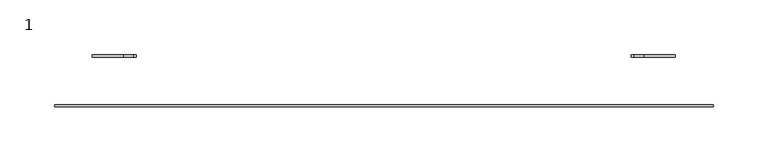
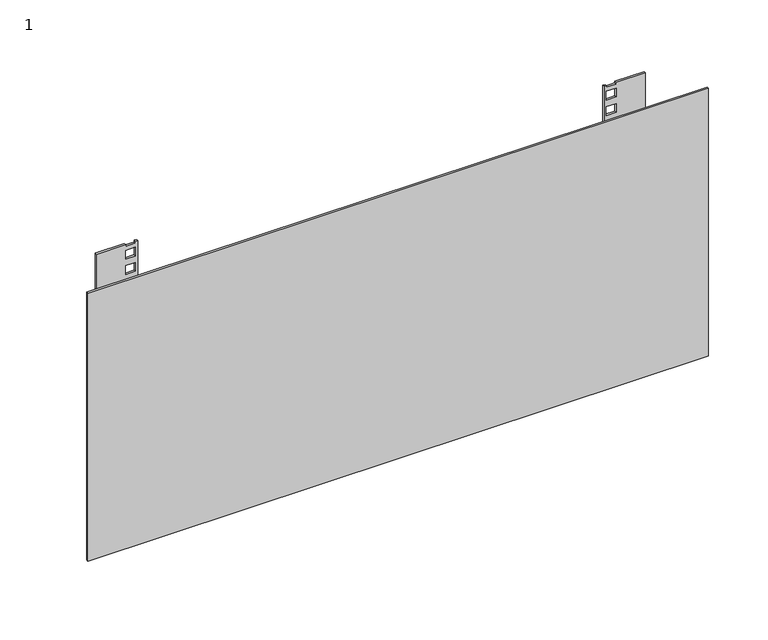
"""IFC4 building model written with IfcOpenShell, lengths in millimetres: proxy geometry, 1 : 6U 600мм металлическая дверь."""

import ifcopenshell
import ifcopenshell.guid

model = None  # the IFC model being written
_history = None  # IfcOwnerHistory: only IFC2X3 demands one
_inside = {}  # id of a spatial element -> (the spatial element, [elements in it])
_under = {}  # id of a project, library or spatial element -> (it, [spatial elements below it])
_declared = {}  # id of a project -> (the project, [libraries it declares])
_typed = {}  # id of a type object -> (the type object, [elements of that type])
_made_of = {}  # id of a material, layer set ... -> (it, [elements and type objects made of it])


def new_model(schema):
    """Start an empty IFC model of exactly this schema.

    Asked for "IFC4X3", IfcOpenShell would pick the latest addendum, in which some entities
    have other attributes; the version numbers below select the first issue.
    IFC2X3 requires an IfcOwnerHistory on every rooted entity: one is made here for all.
    """
    global model, _history
    if schema == "IFC4X3":
        model = ifcopenshell.file(schema_version=(4, 3, 0, 0))
    else:
        model = ifcopenshell.file(schema=schema)
    _inside.clear()
    _under.clear()
    _declared.clear()
    _typed.clear()
    _made_of.clear()
    _history = None
    if model.schema == "IFC2X3":
        org = make("IfcOrganization", Name="unknown")
        user = make(
            "IfcPersonAndOrganization",
            ThePerson=make("IfcPerson", FamilyName="unknown"),
            TheOrganization=org,
        )
        app = make(
            "IfcApplication",
            ApplicationDeveloper=org,
            Version="unknown",
            ApplicationFullName="unknown",
            ApplicationIdentifier="unknown",
        )
        _history = make(
            "IfcOwnerHistory",
            OwningUser=user,
            OwningApplication=app,
            ChangeAction="ADDED",
            CreationDate=0,
        )
    return model


def make(cls, **values):
    """One entity of the class cls with the attributes given. An attribute that is None is left unset."""
    return model.create_entity(
        cls, **{name: value for name, value in values.items() if value is not None}
    )


def rooted(cls, **values):
    """An entity with a GlobalId (a new one), such as an element, a storey or a relation."""
    return make(cls, GlobalId=ifcopenshell.guid.new(), OwnerHistory=_history, **values)


def si_unit(unit_type, name, prefix=None):
    """IfcSIUnit, for example si_unit("LENGTHUNIT", "METRE", prefix="MILLI")."""
    return make("IfcSIUnit", UnitType=unit_type, Prefix=prefix, Name=name)


def assignment(units):
    """IfcUnitAssignment: the units of a project."""
    return None if units is None else make("IfcUnitAssignment", Units=units)


def point(xyz):
    """IfcCartesianPoint."""
    return None if xyz is None else make("IfcCartesianPoint", Coordinates=xyz)


def direction(xyz):
    """IfcDirection."""
    return None if xyz is None else make("IfcDirection", DirectionRatios=xyz)


def frame(location, z_axis=None, x_axis=None):
    """IfcAxis2Placement3D, a coordinate frame: its origin and axes. An axis left out is left unset."""
    return make(
        "IfcAxis2Placement3D",
        Location=point(location),
        Axis=direction(z_axis),
        RefDirection=direction(x_axis),
    )


def origin():
    """The frame at (0, 0, 0) with its axes left unset."""
    return frame((0.0, 0.0, 0.0))


def place(relative_to, where):
    """IfcLocalPlacement: puts the frame where relative to a parent placement (None: the world)."""
    return make(
        "IfcLocalPlacement", PlacementRelTo=relative_to, RelativePlacement=where
    )


def context(
    kind, dimensions, precision=None, world=None, true_north=None, identifier=None
):
    """IfcGeometricRepresentationContext, for example the 3D "Model" context."""
    return make(
        "IfcGeometricRepresentationContext",
        ContextIdentifier=identifier,
        ContextType=kind,
        CoordinateSpaceDimension=dimensions,
        Precision=precision,
        WorldCoordinateSystem=world,
        TrueNorth=true_north,
    )


def project(units=None, contexts=None):
    """IfcProject with its units and contexts."""
    return rooted(
        "IfcProject",
        Name="project",
        RepresentationContexts=contexts,
        UnitsInContext=assignment(units),
    )


def spatial(cls, under=None, at=None, **own):
    """A site, building, storey or space (cls), placed at a placement, below another one or the project."""
    s = rooted(cls, ObjectPlacement=at, **own)
    if under is not None:
        _under.setdefault(under.id(), (under, []))[1].append(s)
    return s


def polyline(points):
    """IfcPolyline through the points."""
    return make("IfcPolyline", Points=[point(p) for p in points])


def outline(outer, holes=None, kind="AREA"):
    """IfcArbitraryClosedProfileDef: a profile drawn as a closed curve; with holes, ...WithVoids."""
    if holes is None:
        return make("IfcArbitraryClosedProfileDef", ProfileType=kind, OuterCurve=outer)
    return make(
        "IfcArbitraryProfileDefWithVoids",
        ProfileType=kind,
        OuterCurve=outer,
        InnerCurves=holes,
    )


def extrude(swept, where, along, depth):
    """IfcExtrudedAreaSolid: the profile swept, set in the frame where, extruded along a direction by depth."""
    return make(
        "IfcExtrudedAreaSolid",
        SweptArea=swept,
        Position=where,
        ExtrudedDirection=direction(along),
        Depth=depth,
    )


def shape(context_of_items, identifier, shape_type, items):
    """IfcShapeRepresentation: the items that make up one representation, for example the "Body"."""
    return make(
        "IfcShapeRepresentation",
        ContextOfItems=context_of_items,
        RepresentationIdentifier=identifier,
        RepresentationType=shape_type,
        Items=items,
    )


def source(mapping_origin, context_of_items, identifier, shape_type, items):
    """IfcRepresentationMap: a shape defined once, which mapped items show again and again."""
    return make(
        "IfcRepresentationMap",
        MappingOrigin=mapping_origin,
        MappedRepresentation=shape(context_of_items, identifier, shape_type, items),
    )


def transform(
    local_origin,
    x_axis=None,
    y_axis=None,
    z_axis=None,
    scale=None,
    scale2=None,
    scale3=None,
    uniform=True,
):
    """IfcCartesianTransformationOperator3D, or its non-uniform kind. x_axis, y_axis, z_axis: its Axis1, 2, 3."""
    if uniform:
        return make(
            "IfcCartesianTransformationOperator3D",
            Axis1=direction(x_axis),
            Axis2=direction(y_axis),
            LocalOrigin=point(local_origin),
            Scale=scale,
            Axis3=direction(z_axis),
        )
    return make(
        "IfcCartesianTransformationOperator3DnonUniform",
        Axis1=direction(x_axis),
        Axis2=direction(y_axis),
        LocalOrigin=point(local_origin),
        Scale=scale,
        Axis3=direction(z_axis),
        Scale2=scale2,
        Scale3=scale3,
    )


def mapped(mapping_source, mapping_target):
    """IfcMappedItem: shows the shape of a source again, moved by a transform."""
    return make(
        "IfcMappedItem", MappingSource=mapping_source, MappingTarget=mapping_target
    )


def made_of(thing, what):
    """Note that an element or type object is made of a material, layer set ...; save() writes the relation."""
    if what is not None:
        _made_of.setdefault(what.id(), (what, []))[1].append(thing)
    return thing


def element(
    cls,
    number,
    at=None,
    inside=None,
    cuts=None,
    type_object=None,
    material=None,
    context=None,
    identifier="Body",
    shape_type=None,
    held_by="IfcProductDefinitionShape",
    body=None,
    shapes=None,
    **own,
):
    """One element of the class cls, such as IfcWall. Its Tag is "e" and its number.

    at: its placement. inside: the storey or other place that contains it. cuts: it is an
    opening in that element (IfcRelVoidsElement). A single representation is given by context,
    identifier, shape_type and body (its items); several are given by shapes. held_by: the class
    of the entity that holds the representations. save() writes the other relations.
    """
    e = rooted(cls, Tag="e%d" % number, ObjectPlacement=at, **own)
    if body is not None:
        shapes = [shape(context, identifier, shape_type, body)]
    if shapes is not None:
        e.Representation = make(held_by, Representations=shapes)
    if inside is not None:
        _inside.setdefault(inside.id(), (inside, []))[1].append(e)
    if cuts is not None:
        rooted(
            "IfcRelVoidsElement", RelatingBuildingElement=cuts, RelatedOpeningElement=e
        )
    if type_object is not None:
        _typed.setdefault(type_object.id(), (type_object, []))[1].append(e)
    return made_of(e, material)


def aggregate(whole, parts):
    """IfcRelAggregates: a whole, such as a stair, and the parts it consists of."""
    return rooted("IfcRelAggregates", RelatingObject=whole, RelatedObjects=parts)


def save(model, path):
    """Write the relations noted so far, then the file.

    IfcRelAggregates (storeys below a building ...), IfcRelContainedInSpatialStructure (elements
    in a storey), IfcRelDefinesByType, IfcRelAssociatesMaterial and IfcRelDeclares: one each for
    every whole, place, type object, material and project.
    """
    for whole, parts in _under.values():
        aggregate(whole, parts)
    for where, things in _inside.values():
        rooted(
            "IfcRelContainedInSpatialStructure",
            RelatedElements=things,
            RelatingStructure=where,
        )
    for kind, things in _typed.values():
        rooted("IfcRelDefinesByType", RelatedObjects=things, RelatingType=kind)
    for what, things in _made_of.values():
        rooted("IfcRelAssociatesMaterial", RelatedObjects=things, RelatingMaterial=what)
    for by, libraries in _declared.values():
        rooted("IfcRelDeclares", RelatingContext=by, RelatedDefinitions=libraries)
    model.write(path)


def proxy_1_5aa67179(model_context):
    return source(origin(), model_context, "Body", "SweptSolid", [
        extrude(outline(polyline([(20.4675, 225.3), (20.4675, 265.3), (314.4675, 265.3), (314.4675, 237.05), (312.7675, 237.05), (312.7675, 227.55), (314.4675, 227.55), (314.4675, 225.3), (20.4675, 225.3)]), holes=[polyline([(55.0175, 227.55), (55.0175, 237.05), (46.0675, 237.05), (46.0675, 227.55), (55.0175, 227.55)]), polyline([(70.6675, 227.55), (70.6675, 237.05), (61.7175, 237.05), (61.7175, 227.55), (70.6675, 227.55)]), polyline([(86.3175, 227.55), (86.3175, 237.05), (77.3675, 237.05), (77.3675, 227.55), (86.3175, 227.55)]), polyline([(99.4675, 237.05), (90.5175, 237.05), (90.5175, 227.55), (99.4675, 227.55), (99.4675, 237.05)]), polyline([(115.1175, 237.05), (106.1675, 237.05), (106.1675, 227.55), (115.1175, 227.55), (115.1175, 237.05)]), polyline([(130.7675, 237.05), (121.8175, 237.05), (121.8175, 227.55), (130.7675, 227.55), (130.7675, 237.05)]), polyline([(143.9175, 237.05), (134.9675, 237.05), (134.9675, 227.55), (143.9175, 227.55), (143.9175, 237.05)]), polyline([(159.5675, 237.05), (150.6175, 237.05), (150.6175, 227.55), (159.5675, 227.55), (159.5675, 237.05)]), polyline([(175.2175, 237.05), (166.2675, 237.05), (166.2675, 227.55), (175.2175, 227.55), (175.2175, 237.05)]), polyline([(188.3675, 237.05), (179.4175, 237.05), (179.4175, 227.55), (188.3675, 227.55), (188.3675, 237.05)]), polyline([(204.0175, 237.05), (195.0675, 237.05), (195.0675, 227.55), (204.0175, 227.55), (204.0175, 237.05)]), polyline([(219.6675, 237.05), (210.7175, 237.05), (210.7175, 227.55), (219.6675, 227.55), (219.6675, 237.05)]), polyline([(232.8175, 237.05), (223.8675, 237.05), (223.8675, 227.55), (232.8175, 227.55), (232.8175, 237.05)]), polyline([(248.4675, 237.05), (239.5175, 237.05), (239.5175, 227.55), (248.4675, 227.55), (248.4675, 237.05)]), polyline([(264.1175, 237.05), (255.1675, 237.05), (255.1675, 227.55), (264.1175, 227.55), (264.1175, 237.05)]), polyline([(277.2675, 237.05), (268.3175, 237.05), (268.3175, 227.55), (277.2675, 227.55), (277.2675, 237.05)]), polyline([(292.9175, 237.05), (283.9675, 237.05), (283.9675, 227.55), (292.9175, 227.55), (292.9175, 237.05)]), polyline([(308.5675, 237.05), (299.6175, 237.05), (299.6175, 227.55), (308.5675, 227.55), (308.5675, 237.05)])]), frame((0.0, -254.6777479, 0.0), z_axis=(0.0, 1.0, 0.0), x_axis=(0.0, 0.0, 1.0)), (0.0, 0.0, 1.0), 2.0),
        extrude(outline(polyline([(20.4675, -265.7), (20.4675, -225.7), (314.4675, -225.7), (314.4675, -227.95), (312.7675, -227.95), (312.7675, -237.45), (314.4675, -237.45), (314.4675, -265.7), (20.4675, -265.7)]), holes=[polyline([(55.0175, -237.45), (55.0175, -227.95), (46.0675, -227.95), (46.0675, -237.45), (55.0175, -237.45)]), polyline([(70.6675, -237.45), (70.6675, -227.95), (61.7175, -227.95), (61.7175, -237.45), (70.6675, -237.45)]), polyline([(86.3175, -237.45), (86.3175, -227.95), (77.3675, -227.95), (77.3675, -237.45), (86.3175, -237.45)]), polyline([(90.5175, -237.45), (99.4675, -237.45), (99.4675, -227.95), (90.5175, -227.95), (90.5175, -237.45)]), polyline([(106.1675, -237.45), (115.1175, -237.45), (115.1175, -227.95), (106.1675, -227.95), (106.1675, -237.45)]), polyline([(121.8175, -237.45), (130.7675, -237.45), (130.7675, -227.95), (121.8175, -227.95), (121.8175, -237.45)]), polyline([(134.9675, -237.45), (143.9175, -237.45), (143.9175, -227.95), (134.9675, -227.95), (134.9675, -237.45)]), polyline([(150.6175, -237.45), (159.5675, -237.45), (159.5675, -227.95), (150.6175, -227.95), (150.6175, -237.45)]), polyline([(166.2675, -237.45), (175.2175, -237.45), (175.2175, -227.95), (166.2675, -227.95), (166.2675, -237.45)]), polyline([(179.4175, -237.45), (188.3675, -237.45), (188.3675, -227.95), (179.4175, -227.95), (179.4175, -237.45)]), polyline([(195.0675, -237.45), (204.0175, -237.45), (204.0175, -227.95), (195.0675, -227.95), (195.0675, -237.45)]), polyline([(210.7175, -237.45), (219.6675, -237.45), (219.6675, -227.95), (210.7175, -227.95), (210.7175, -237.45)]), polyline([(223.8675, -237.45), (232.8175, -237.45), (232.8175, -227.95), (223.8675, -227.95), (223.8675, -237.45)]), polyline([(239.5175, -237.45), (248.4675, -237.45), (248.4675, -227.95), (239.5175, -227.95), (239.5175, -237.45)]), polyline([(255.1675, -237.45), (264.1175, -237.45), (264.1175, -227.95), (255.1675, -227.95), (255.1675, -237.45)]), polyline([(268.3175, -237.45), (277.2675, -237.45), (277.2675, -227.95), (268.3175, -227.95), (268.3175, -237.45)]), polyline([(283.9675, -237.45), (292.9175, -237.45), (292.9175, -227.95), (283.9675, -227.95), (283.9675, -237.45)]), polyline([(299.6175, -237.45), (308.5675, -237.45), (308.5675, -227.95), (299.6175, -227.95), (299.6175, -237.45)])]), frame((0.0, -254.6777479, 0.0), z_axis=(0.0, 1.0, 0.0), x_axis=(0.0, 0.0, 1.0)), (0.0, 0.0, 1.0), 2.0),
        extrude(outline(polyline([(-300.0, -298.0), (300.0, -298.0), (300.0, -300.0), (-300.0, -300.0), (-300.0, -298.0)])), frame((0.0, 0.0, 40.0), z_axis=(0.0, 0.0, 1.0), x_axis=(1.0, 0.0, 0.0)), (0.0, 0.0, 1.0), 274.0),
    ])


if __name__ == "__main__":
    model = new_model("IFC4")
    model_context = context("Model", 3, world=origin())
    ifc_project = project(units=[si_unit("LENGTHUNIT", "METRE", prefix="MILLI")], contexts=[model_context])
    site = spatial("IfcSite", under=ifc_project)
    building = spatial("IfcBuilding", under=site)
    placement = place(None, origin())
    proxy_1_shape = proxy_1_5aa67179(model_context)
    element("IfcBuildingElementProxy", 1, Name="1 : 6U 600мм металлическая дверь", ObjectType="1 : 6U 600мм металлическая дверь", at=placement, inside=building, context=model_context, shape_type="MappedRepresentation", body=[
        mapped(proxy_1_shape, transform((0.0, 0.0, 0.0), x_axis=(1.0, 0.0, 0.0), y_axis=(0.0, 1.0, 0.0), z_axis=(0.0, 0.0, 1.0))),
    ])
    save(model, "model.ifc")
